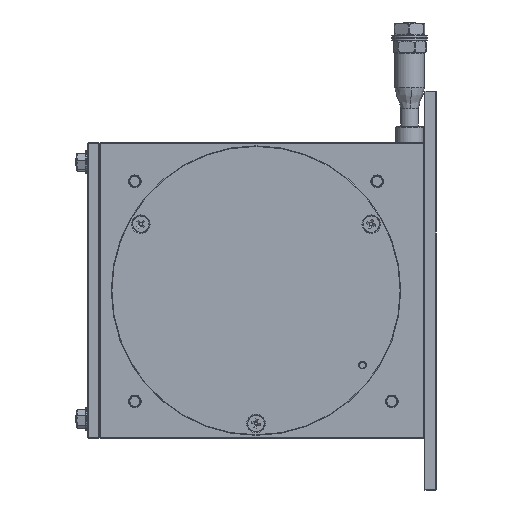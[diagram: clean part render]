
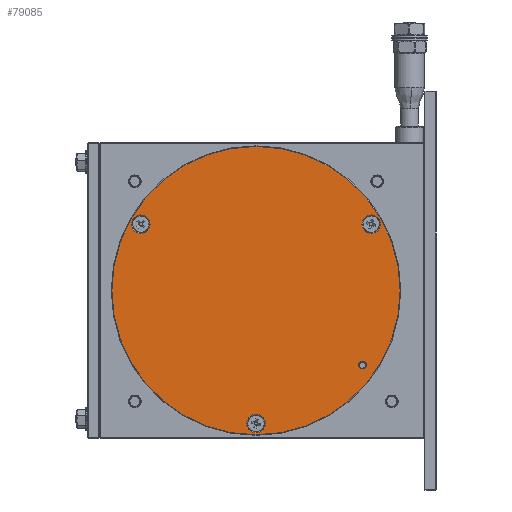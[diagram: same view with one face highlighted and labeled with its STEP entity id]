
A CAD part, left-side view. The second image highlights one B-rep face of the part: STEP entity #79085.
In plain terms, the highlighted planar face has unit normal (-1, 0, 0).
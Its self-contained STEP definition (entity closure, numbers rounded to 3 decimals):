
#595 = EDGE_LOOP ( 'NONE', ( #19683, #36224 ) ) ;
#730 = DIRECTION ( 'NONE',  ( 0., 0.866, -0.5 ) ) ;
#770 = CARTESIAN_POINT ( 'NONE',  ( -42.9, 24.957, -25.237 ) ) ;
#1241 = AXIS2_PLACEMENT_3D ( 'NONE', #85649, #95115, #60435 ) ;
#1318 = AXIS2_PLACEMENT_3D ( 'NONE', #21902, #65146, #56144 ) ;
#7090 = DIRECTION ( 'NONE',  ( 0., 0.866, -0.5 ) ) ;
#7657 = CARTESIAN_POINT ( 'NONE',  ( -42.9, 24.307, -26.363 ) ) ;
#8753 = CARTESIAN_POINT ( 'NONE',  ( -42.9, 20.479, 19.815 ) ) ;
#10710 = VERTEX_POINT ( 'NONE', #81875 ) ;
#12465 = ORIENTED_EDGE ( 'NONE', *, *, #57198, .T. ) ;
#14175 = VERTEX_POINT ( 'NONE', #30075 ) ;
#14380 = DIRECTION ( 'NONE',  ( 1., 0., 0. ) ) ;
#14624 = DIRECTION ( 'NONE',  ( 1., 0., 0. ) ) ;
#14899 = CIRCLE ( 'NONE', #95464, 3.1 ) ;
#15684 = CARTESIAN_POINT ( 'NONE',  ( -42.9, 18.738, 24.4 ) ) ;
#17010 = DIRECTION ( 'NONE',  ( 1., 0., 0. ) ) ;
#17145 = VERTEX_POINT ( 'NONE', #7657 ) ;
#17343 = EDGE_CURVE ( 'NONE', #21904, #14175, #35492, .T. ) ;
#19683 = ORIENTED_EDGE ( 'NONE', *, *, #75544, .T. ) ;
#20441 = ORIENTED_EDGE ( 'NONE', *, *, #17343, .T. ) ;
#21902 = CARTESIAN_POINT ( 'NONE',  ( -42.9, 61., 0. ) ) ;
#21904 = VERTEX_POINT ( 'NONE', #93747 ) ;
#22040 = AXIS2_PLACEMENT_3D ( 'NONE', #770, #68109, #24343 ) ;
#23005 = DIRECTION ( 'NONE',  ( 0., 0.866, -0.5 ) ) ;
#24343 = DIRECTION ( 'NONE',  ( 0., 0.866, -0.5 ) ) ;
#26271 = DIRECTION ( 'NONE',  ( -1., 0., 0. ) ) ;
#29327 = FACE_BOUND ( 'NONE', #595, .T. ) ;
#30075 = CARTESIAN_POINT ( 'NONE',  ( -42.9, 101.521, 25.185 ) ) ;
#31167 = CARTESIAN_POINT ( 'NONE',  ( -42.9, 59.45, -47.685 ) ) ;
#31217 = CARTESIAN_POINT ( 'NONE',  ( -42.9, 61., -45. ) ) ;
#31588 = CIRCLE ( 'NONE', #51305, 3.1 ) ;
#32334 = ORIENTED_EDGE ( 'NONE', *, *, #96051, .T. ) ;
#32352 = DIRECTION ( 'NONE',  ( 1., 0., 0. ) ) ;
#34044 = CARTESIAN_POINT ( 'NONE',  ( -42.9, 61., -45. ) ) ;
#34727 = CIRCLE ( 'NONE', #22040, 1.3 ) ;
#35492 = CIRCLE ( 'NONE', #78407, 3.1 ) ;
#36224 = ORIENTED_EDGE ( 'NONE', *, *, #41777, .T. ) ;
#36378 = DIRECTION ( 'NONE',  ( 0., 0.866, -0.5 ) ) ;
#39013 = EDGE_CURVE ( 'NONE', #10710, #95309, #108793, .T. ) ;
#39149 = VERTEX_POINT ( 'NONE', #66841 ) ;
#39403 = CARTESIAN_POINT ( 'NONE',  ( -42.9, 61., 0. ) ) ;
#39880 = VERTEX_POINT ( 'NONE', #73034 ) ;
#41777 = EDGE_CURVE ( 'NONE', #39149, #17145, #34727, .T. ) ;
#45173 = EDGE_LOOP ( 'NONE', ( #20441, #86151 ) ) ;
#45984 = CARTESIAN_POINT ( 'NONE',  ( -42.9, 24.957, -25.237 ) ) ;
#46538 = DIRECTION ( 'NONE',  ( 0., 0.866, -0.5 ) ) ;
#47911 = AXIS2_PLACEMENT_3D ( 'NONE', #45984, #106419, #46538 ) ;
#48267 = EDGE_LOOP ( 'NONE', ( #72206, #109102 ) ) ;
#48496 = DIRECTION ( 'NONE',  ( 1., 0., 0. ) ) ;
#51305 = AXIS2_PLACEMENT_3D ( 'NONE', #75743, #14624, #23005 ) ;
#56144 = DIRECTION ( 'NONE',  ( 0., 0.866, -0.5 ) ) ;
#56288 = ORIENTED_EDGE ( 'NONE', *, *, #99822, .T. ) ;
#57198 = EDGE_CURVE ( 'NONE', #65855, #39880, #83685, .T. ) ;
#58591 = CIRCLE ( 'NONE', #1241, 3.1 ) ;
#60435 = DIRECTION ( 'NONE',  ( 0., 0.866, -0.5 ) ) ;
#60599 = AXIS2_PLACEMENT_3D ( 'NONE', #94891, #17010, #730 ) ;
#61370 = VERTEX_POINT ( 'NONE', #77480 ) ;
#62259 = CIRCLE ( 'NONE', #71242, 3.1 ) ;
#62916 = EDGE_CURVE ( 'NONE', #95309, #10710, #58591, .T. ) ;
#63534 = FACE_BOUND ( 'NONE', #45173, .T. ) ;
#65146 = DIRECTION ( 'NONE',  ( -1., 0., 0. ) ) ;
#65151 = DIRECTION ( 'NONE',  ( -1., 0., 0. ) ) ;
#65855 = VERTEX_POINT ( 'NONE', #15684 ) ;
#66583 = DIRECTION ( 'NONE',  ( 0., 0.866, -0.5 ) ) ;
#66841 = CARTESIAN_POINT ( 'NONE',  ( -42.9, 25.607, -24.112 ) ) ;
#68109 = DIRECTION ( 'NONE',  ( 1., 0., 0. ) ) ;
#69446 = CIRCLE ( 'NONE', #47911, 1.3 ) ;
#69537 = AXIS2_PLACEMENT_3D ( 'NONE', #39403, #65151, #91413 ) ;
#70822 = FACE_BOUND ( 'NONE', #48267, .T. ) ;
#71242 = AXIS2_PLACEMENT_3D ( 'NONE', #31217, #14380, #7090 ) ;
#72206 = ORIENTED_EDGE ( 'NONE', *, *, #62916, .T. ) ;
#72859 = EDGE_LOOP ( 'NONE', ( #56288, #32334 ) ) ;
#73034 = CARTESIAN_POINT ( 'NONE',  ( -42.9, 103.262, -24.4 ) ) ;
#74257 = EDGE_CURVE ( 'NONE', #14175, #21904, #31588, .T. ) ;
#75544 = EDGE_CURVE ( 'NONE', #17145, #39149, #69446, .T. ) ;
#75743 = CARTESIAN_POINT ( 'NONE',  ( -42.9, 99.971, 22.5 ) ) ;
#77480 = CARTESIAN_POINT ( 'NONE',  ( -42.9, 62.55, -42.315 ) ) ;
#77526 = AXIS2_PLACEMENT_3D ( 'NONE', #102996, #26271, #36378 ) ;
#78407 = AXIS2_PLACEMENT_3D ( 'NONE', #98873, #48496, #82642 ) ;
#79085 = ADVANCED_FACE ( 'NONE', ( #63534, #89792, #70822, #29327, #88161 ), #88694, .T. ) ;
#81875 = CARTESIAN_POINT ( 'NONE',  ( -42.9, 23.579, 25.185 ) ) ;
#82642 = DIRECTION ( 'NONE',  ( 0., 0.866, -0.5 ) ) ;
#83685 = CIRCLE ( 'NONE', #1318, 48.8 ) ;
#84625 = ORIENTED_EDGE ( 'NONE', *, *, #105729, .T. ) ;
#85649 = CARTESIAN_POINT ( 'NONE',  ( -42.9, 22.029, 22.5 ) ) ;
#86151 = ORIENTED_EDGE ( 'NONE', *, *, #74257, .T. ) ;
#86467 = VERTEX_POINT ( 'NONE', #31167 ) ;
#88161 = FACE_OUTER_BOUND ( 'NONE', #96874, .T. ) ;
#88694 = PLANE ( 'NONE',  #69537 ) ;
#89792 = FACE_BOUND ( 'NONE', #72859, .T. ) ;
#91413 = DIRECTION ( 'NONE',  ( 0., 0.866, -0.5 ) ) ;
#93747 = CARTESIAN_POINT ( 'NONE',  ( -42.9, 98.421, 19.815 ) ) ;
#94891 = CARTESIAN_POINT ( 'NONE',  ( -42.9, 22.029, 22.5 ) ) ;
#95115 = DIRECTION ( 'NONE',  ( 1., 0., 0. ) ) ;
#95309 = VERTEX_POINT ( 'NONE', #8753 ) ;
#95464 = AXIS2_PLACEMENT_3D ( 'NONE', #34044, #32352, #66583 ) ;
#96051 = EDGE_CURVE ( 'NONE', #61370, #86467, #62259, .T. ) ;
#96874 = EDGE_LOOP ( 'NONE', ( #12465, #84625 ) ) ;
#98873 = CARTESIAN_POINT ( 'NONE',  ( -42.9, 99.971, 22.5 ) ) ;
#99822 = EDGE_CURVE ( 'NONE', #86467, #61370, #14899, .T. ) ;
#102996 = CARTESIAN_POINT ( 'NONE',  ( -42.9, 61., 0. ) ) ;
#105729 = EDGE_CURVE ( 'NONE', #39880, #65855, #107915, .T. ) ;
#106419 = DIRECTION ( 'NONE',  ( 1., 0., 0. ) ) ;
#107915 = CIRCLE ( 'NONE', #77526, 48.8 ) ;
#108793 = CIRCLE ( 'NONE', #60599, 3.1 ) ;
#109102 = ORIENTED_EDGE ( 'NONE', *, *, #39013, .T. ) ;
